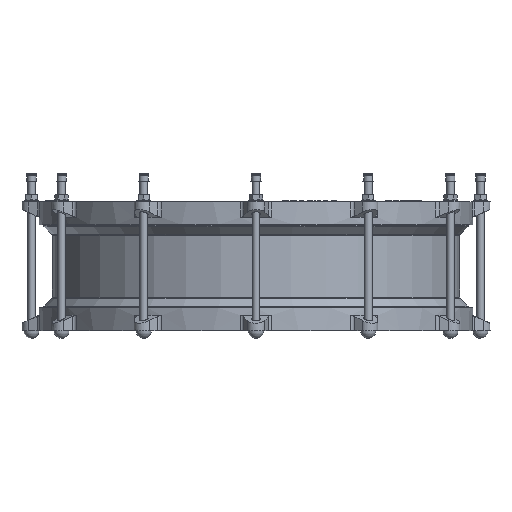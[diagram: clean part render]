
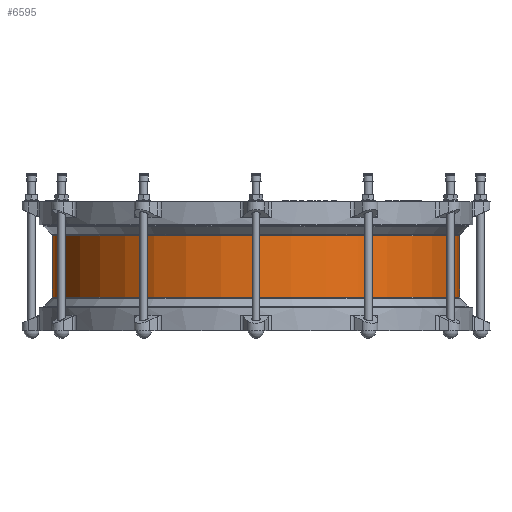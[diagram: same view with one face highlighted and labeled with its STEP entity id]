
A CAD part, front view. The second image highlights one B-rep face of the part: STEP entity #6595.
In plain terms, the highlighted cylindrical face has radius 429 mm (diameter 858 mm), a full revolution.
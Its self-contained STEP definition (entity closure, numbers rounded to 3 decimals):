
#6595=ADVANCED_FACE('',(#12227,#12229),#12231,.T.);
#12227=FACE_OUTER_BOUND('',#12228,.T.);
#12228=EDGE_LOOP('',(#18087));
#12229=FACE_OUTER_BOUND('',#12230,.T.);
#12230=EDGE_LOOP('',(#18088));
#12231=CYLINDRICAL_SURFACE('',#12232,429.);
#12232=AXIS2_PLACEMENT_3D('',#12233,#12234,#12235);
#12233=CARTESIAN_POINT('',(0.,0.,66.343));
#12234=DIRECTION('',(0.,0.,-1.));
#12235=DIRECTION('',(0.,1.,0.));
#18087=ORIENTED_EDGE('',*,*,#20589,.T.);
#18088=ORIENTED_EDGE('',*,*,#20590,.F.);
#20589=EDGE_CURVE('',#24125,#24125,#24126,.T.);
#20590=EDGE_CURVE('',#24127,#24127,#24128,.T.);
#24125=VERTEX_POINT('',#38902);
#24126=CIRCLE('',#38903,429.);
#24127=VERTEX_POINT('',#38907);
#24128=CIRCLE('',#38908,429.);
#38902=CARTESIAN_POINT('',(0.,429.,64.686));
#38903=AXIS2_PLACEMENT_3D('',#38904,#38905,#38906);
#38904=CARTESIAN_POINT('',(0.,0.,64.686));
#38905=DIRECTION('',(0.,0.,-1.));
#38906=DIRECTION('',(0.,1.,0.));
#38907=CARTESIAN_POINT('',(0.,429.,-64.686));
#38908=AXIS2_PLACEMENT_3D('',#38909,#38910,#38911);
#38909=CARTESIAN_POINT('',(0.,0.,-64.686));
#38910=DIRECTION('',(0.,0.,-1.));
#38911=DIRECTION('',(0.,1.,0.));
